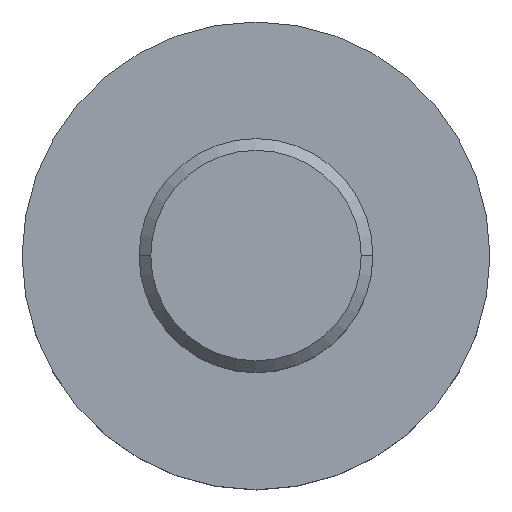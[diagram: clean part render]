
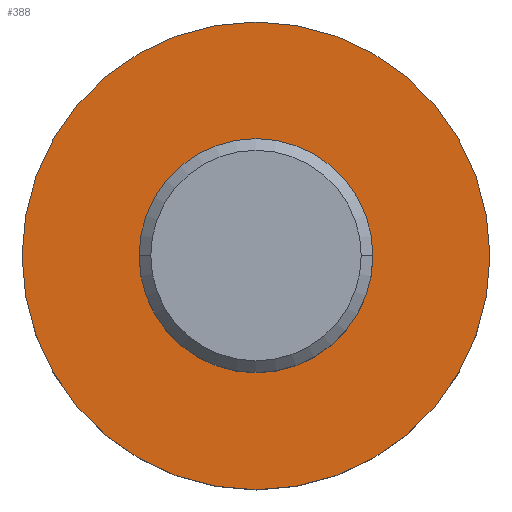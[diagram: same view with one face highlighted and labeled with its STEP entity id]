
A CAD part, top view. The second image highlights one B-rep face of the part: STEP entity #388.
In plain terms, the highlighted planar face has unit normal (0, 0, 1).
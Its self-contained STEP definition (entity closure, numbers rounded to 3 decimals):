
#97=CARTESIAN_POINT('',(0.,0.,-0.8));
#98=DIRECTION('',(0.,0.,1.));
#99=DIRECTION('',(1.,0.,0.));
#100=AXIS2_PLACEMENT_3D('',#97,#98,#99);
#110=CARTESIAN_POINT('',(0.,0.,-0.8));
#111=DIRECTION('',(0.,0.,-1.));
#112=DIRECTION('',(1.,0.,0.));
#113=AXIS2_PLACEMENT_3D('',#110,#111,#112);
#115=CARTESIAN_POINT('',(0.,0.,-0.8));
#116=DIRECTION('',(0.,0.,1.));
#117=DIRECTION('',(1.,0.,0.));
#118=AXIS2_PLACEMENT_3D('',#115,#116,#117);
#120=CARTESIAN_POINT('',(0.,0.,-0.8));
#121=DIRECTION('',(0.,0.,-1.));
#122=DIRECTION('',(1.,0.,0.));
#123=AXIS2_PLACEMENT_3D('',#120,#121,#122);
#171=CARTESIAN_POINT('',(0.5,0.,-0.8));
#172=VERTEX_POINT('',#171);
#173=CARTESIAN_POINT('',(1.,0.,-0.8));
#175=VERTEX_POINT('',#173);
#191=CARTESIAN_POINT('',(-0.5,0.,-0.8));
#192=VERTEX_POINT('',#191);
#193=CARTESIAN_POINT('',(-1.,0.,-0.8));
#195=VERTEX_POINT('',#193);
#373=CARTESIAN_POINT('',(0.,0.,-0.8));
#374=DIRECTION('',(0.,0.,1.));
#375=DIRECTION('',(-1.,0.,0.));
#376=AXIS2_PLACEMENT_3D('',#373,#374,#375);
#377=PLANE('',#376);
#378=ORIENTED_EDGE('',*,*,#368,.T.);
#379=ORIENTED_EDGE('',*,*,#352,.F.);
#380=EDGE_LOOP('',(#378,#379));
#381=FACE_OUTER_BOUND('',#380,.F.);
#383=ORIENTED_EDGE('',*,*,#382,.T.);
#385=ORIENTED_EDGE('',*,*,#384,.F.);
#386=EDGE_LOOP('',(#383,#385));
#387=FACE_BOUND('',#386,.F.);
#388=ADVANCED_FACE('',(#381,#387),#377,.T.);
#101=CIRCLE('',#100,1.);
#114=CIRCLE('',#113,1.);
#119=CIRCLE('',#118,0.5);
#124=CIRCLE('',#123,0.5);
#352=EDGE_CURVE('',#175,#195,#101,.T.);
#368=EDGE_CURVE('',#175,#195,#114,.T.);
#382=EDGE_CURVE('',#172,#192,#119,.T.);
#384=EDGE_CURVE('',#172,#192,#124,.T.);
